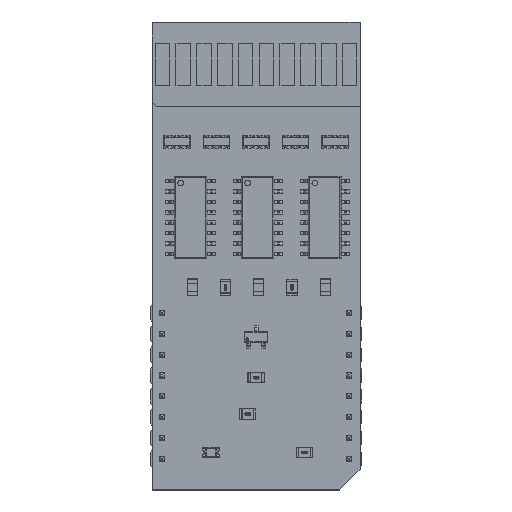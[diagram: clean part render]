
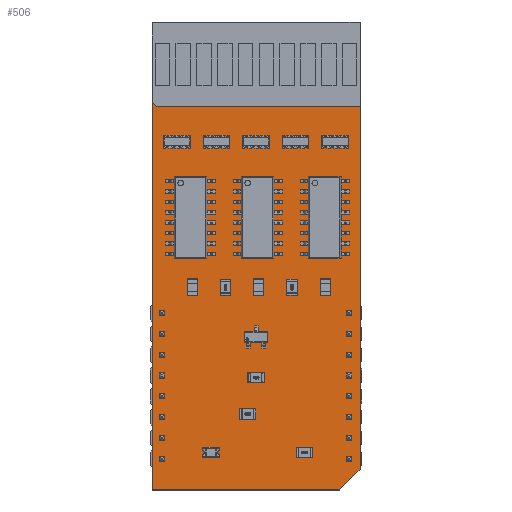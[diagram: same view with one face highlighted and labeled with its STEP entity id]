
A CAD part, top view. The second image highlights one B-rep face of the part: STEP entity #506.
In plain terms, the highlighted planar face has unit normal (0, 0, 1).
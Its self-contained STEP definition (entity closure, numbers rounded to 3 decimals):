
#115 = VERTEX_POINT('',#116);
#116 = CARTESIAN_POINT('',(-1.27,-3.81,0.345));
#123 = PLANE('',#124);
#124 = AXIS2_PLACEMENT_3D('',#125,#126,#127);
#125 = CARTESIAN_POINT('',(-1.27,-3.81,0.));
#126 = DIRECTION('',(0.,1.,0.));
#127 = DIRECTION('',(1.,0.,0.));
#135 = PLANE('',#136);
#136 = AXIS2_PLACEMENT_3D('',#137,#138,#139);
#137 = CARTESIAN_POINT('',(-1.27,53.34,0.));
#138 = DIRECTION('',(1.,0.,0.));
#139 = DIRECTION('',(0.,-1.,0.));
#147 = EDGE_CURVE('',#115,#148,#150,.T.);
#148 = VERTEX_POINT('',#149);
#149 = CARTESIAN_POINT('',(21.59,-3.81,0.345));
#150 = SURFACE_CURVE('',#151,(#155,#162),.PCURVE_S1.);
#151 = LINE('',#152,#153);
#152 = CARTESIAN_POINT('',(-1.27,-3.81,0.345));
#153 = VECTOR('',#154,1.);
#154 = DIRECTION('',(1.,0.,0.));
#155 = PCURVE('',#123,#156);
#156 = DEFINITIONAL_REPRESENTATION('',(#157),#161);
#157 = LINE('',#158,#159);
#158 = CARTESIAN_POINT('',(0.,-0.345));
#159 = VECTOR('',#160,1.);
#160 = DIRECTION('',(1.,0.));
#161 = ( GEOMETRIC_REPRESENTATION_CONTEXT(2) 
PARAMETRIC_REPRESENTATION_CONTEXT() REPRESENTATION_CONTEXT('2D SPACE',''
  ) );
#162 = PCURVE('',#163,#168);
#163 = PLANE('',#164);
#164 = AXIS2_PLACEMENT_3D('',#165,#166,#167);
#165 = CARTESIAN_POINT('',(-1.27,-3.81,0.345));
#166 = DIRECTION('',(0.,0.,-1.));
#167 = DIRECTION('',(-1.,0.,0.));
#168 = DEFINITIONAL_REPRESENTATION('',(#169),#173);
#169 = LINE('',#170,#171);
#170 = CARTESIAN_POINT('',(0.,0.));
#171 = VECTOR('',#172,1.);
#172 = DIRECTION('',(-1.,0.));
#173 = ( GEOMETRIC_REPRESENTATION_CONTEXT(2) 
PARAMETRIC_REPRESENTATION_CONTEXT() REPRESENTATION_CONTEXT('2D SPACE',''
  ) );
#191 = PLANE('',#192);
#192 = AXIS2_PLACEMENT_3D('',#193,#194,#195);
#193 = CARTESIAN_POINT('',(21.59,-3.81,0.));
#194 = DIRECTION('',(-0.707,0.707,0.));
#195 = DIRECTION('',(0.707,0.707,0.));
#233 = EDGE_CURVE('',#148,#234,#236,.T.);
#234 = VERTEX_POINT('',#235);
#235 = CARTESIAN_POINT('',(24.13,-1.27,0.345));
#236 = SURFACE_CURVE('',#237,(#241,#248),.PCURVE_S1.);
#237 = LINE('',#238,#239);
#238 = CARTESIAN_POINT('',(21.59,-3.81,0.345));
#239 = VECTOR('',#240,1.);
#240 = DIRECTION('',(0.707,0.707,0.));
#241 = PCURVE('',#191,#242);
#242 = DEFINITIONAL_REPRESENTATION('',(#243),#247);
#243 = LINE('',#244,#245);
#244 = CARTESIAN_POINT('',(0.,-0.345));
#245 = VECTOR('',#246,1.);
#246 = DIRECTION('',(1.,0.));
#247 = ( GEOMETRIC_REPRESENTATION_CONTEXT(2) 
PARAMETRIC_REPRESENTATION_CONTEXT() REPRESENTATION_CONTEXT('2D SPACE',''
  ) );
#248 = PCURVE('',#163,#249);
#249 = DEFINITIONAL_REPRESENTATION('',(#250),#254);
#250 = LINE('',#251,#252);
#251 = CARTESIAN_POINT('',(-22.86,0.));
#252 = VECTOR('',#253,1.);
#253 = DIRECTION('',(-0.707,0.707));
#254 = ( GEOMETRIC_REPRESENTATION_CONTEXT(2) 
PARAMETRIC_REPRESENTATION_CONTEXT() REPRESENTATION_CONTEXT('2D SPACE',''
  ) );
#272 = PLANE('',#273);
#273 = AXIS2_PLACEMENT_3D('',#274,#275,#276);
#274 = CARTESIAN_POINT('',(24.13,-1.27,0.));
#275 = DIRECTION('',(-1.,0.,0.));
#276 = DIRECTION('',(0.,1.,0.));
#309 = EDGE_CURVE('',#234,#310,#312,.T.);
#310 = VERTEX_POINT('',#311);
#311 = CARTESIAN_POINT('',(24.13,53.34,0.345));
#312 = SURFACE_CURVE('',#313,(#317,#324),.PCURVE_S1.);
#313 = LINE('',#314,#315);
#314 = CARTESIAN_POINT('',(24.13,-1.27,0.345));
#315 = VECTOR('',#316,1.);
#316 = DIRECTION('',(0.,1.,0.));
#317 = PCURVE('',#272,#318);
#318 = DEFINITIONAL_REPRESENTATION('',(#319),#323);
#319 = LINE('',#320,#321);
#320 = CARTESIAN_POINT('',(0.,-0.345));
#321 = VECTOR('',#322,1.);
#322 = DIRECTION('',(1.,0.));
#323 = ( GEOMETRIC_REPRESENTATION_CONTEXT(2) 
PARAMETRIC_REPRESENTATION_CONTEXT() REPRESENTATION_CONTEXT('2D SPACE',''
  ) );
#324 = PCURVE('',#163,#325);
#325 = DEFINITIONAL_REPRESENTATION('',(#326),#330);
#326 = LINE('',#327,#328);
#327 = CARTESIAN_POINT('',(-25.4,2.54));
#328 = VECTOR('',#329,1.);
#329 = DIRECTION('',(0.,1.));
#330 = ( GEOMETRIC_REPRESENTATION_CONTEXT(2) 
PARAMETRIC_REPRESENTATION_CONTEXT() REPRESENTATION_CONTEXT('2D SPACE',''
  ) );
#348 = PLANE('',#349);
#349 = AXIS2_PLACEMENT_3D('',#350,#351,#352);
#350 = CARTESIAN_POINT('',(24.13,53.34,0.));
#351 = DIRECTION('',(0.,-1.,0.));
#352 = DIRECTION('',(-1.,0.,0.));
#385 = EDGE_CURVE('',#310,#386,#388,.T.);
#386 = VERTEX_POINT('',#387);
#387 = CARTESIAN_POINT('',(-1.27,53.34,0.345));
#388 = SURFACE_CURVE('',#389,(#393,#400),.PCURVE_S1.);
#389 = LINE('',#390,#391);
#390 = CARTESIAN_POINT('',(24.13,53.34,0.345));
#391 = VECTOR('',#392,1.);
#392 = DIRECTION('',(-1.,0.,0.));
#393 = PCURVE('',#348,#394);
#394 = DEFINITIONAL_REPRESENTATION('',(#395),#399);
#395 = LINE('',#396,#397);
#396 = CARTESIAN_POINT('',(0.,-0.345));
#397 = VECTOR('',#398,1.);
#398 = DIRECTION('',(1.,0.));
#399 = ( GEOMETRIC_REPRESENTATION_CONTEXT(2) 
PARAMETRIC_REPRESENTATION_CONTEXT() REPRESENTATION_CONTEXT('2D SPACE',''
  ) );
#400 = PCURVE('',#163,#401);
#401 = DEFINITIONAL_REPRESENTATION('',(#402),#406);
#402 = LINE('',#403,#404);
#403 = CARTESIAN_POINT('',(-25.4,57.15));
#404 = VECTOR('',#405,1.);
#405 = DIRECTION('',(1.,0.));
#406 = ( GEOMETRIC_REPRESENTATION_CONTEXT(2) 
PARAMETRIC_REPRESENTATION_CONTEXT() REPRESENTATION_CONTEXT('2D SPACE',''
  ) );
#456 = EDGE_CURVE('',#386,#115,#457,.T.);
#457 = SURFACE_CURVE('',#458,(#462,#469),.PCURVE_S1.);
#458 = LINE('',#459,#460);
#459 = CARTESIAN_POINT('',(-1.27,53.34,0.345));
#460 = VECTOR('',#461,1.);
#461 = DIRECTION('',(0.,-1.,0.));
#462 = PCURVE('',#135,#463);
#463 = DEFINITIONAL_REPRESENTATION('',(#464),#468);
#464 = LINE('',#465,#466);
#465 = CARTESIAN_POINT('',(0.,-0.345));
#466 = VECTOR('',#467,1.);
#467 = DIRECTION('',(1.,0.));
#468 = ( GEOMETRIC_REPRESENTATION_CONTEXT(2) 
PARAMETRIC_REPRESENTATION_CONTEXT() REPRESENTATION_CONTEXT('2D SPACE',''
  ) );
#469 = PCURVE('',#163,#470);
#470 = DEFINITIONAL_REPRESENTATION('',(#471),#475);
#471 = LINE('',#472,#473);
#472 = CARTESIAN_POINT('',(0.,57.15));
#473 = VECTOR('',#474,1.);
#474 = DIRECTION('',(0.,-1.));
#475 = ( GEOMETRIC_REPRESENTATION_CONTEXT(2) 
PARAMETRIC_REPRESENTATION_CONTEXT() REPRESENTATION_CONTEXT('2D SPACE',''
  ) );
#506 = ADVANCED_FACE('',(#507),#163,.F.);
#507 = FACE_BOUND('',#508,.T.);
#508 = EDGE_LOOP('',(#509,#510,#511,#512,#513));
#509 = ORIENTED_EDGE('',*,*,#147,.T.);
#510 = ORIENTED_EDGE('',*,*,#233,.T.);
#511 = ORIENTED_EDGE('',*,*,#309,.T.);
#512 = ORIENTED_EDGE('',*,*,#385,.T.);
#513 = ORIENTED_EDGE('',*,*,#456,.T.);
